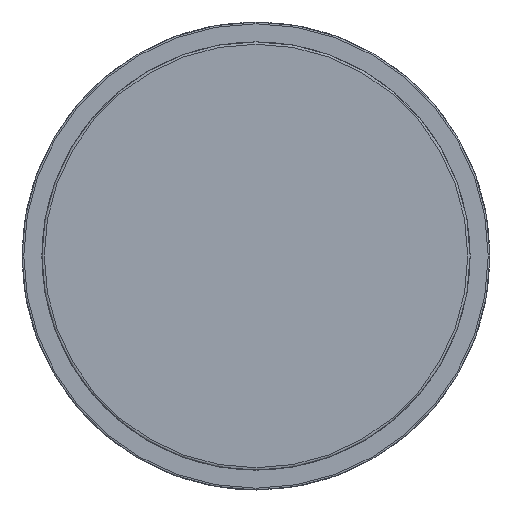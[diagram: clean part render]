
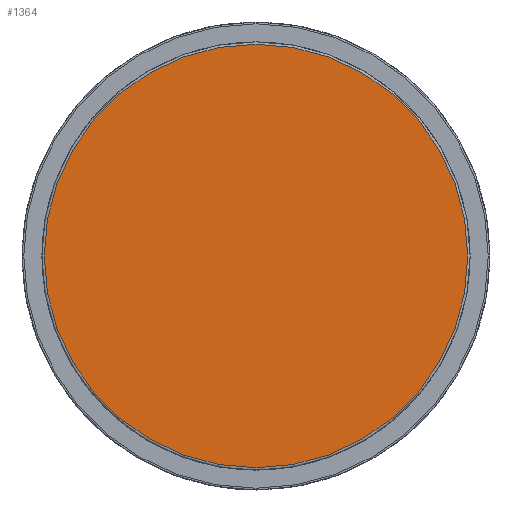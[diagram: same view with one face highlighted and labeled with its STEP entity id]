
A CAD part, left-side view. The second image highlights one B-rep face of the part: STEP entity #1364.
In plain terms, the highlighted planar face has unit normal (-1, 0, 0).
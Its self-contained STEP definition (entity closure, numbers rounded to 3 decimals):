
#1339=CARTESIAN_POINT('',(-528.136,-400.809,-87.3));
#1340=DIRECTION('',(-1.0,0.0,0.0));
#1341=DIRECTION('',(0.0,-1.0,0.0));
#1342=AXIS2_PLACEMENT_3D('',#1339,#1340,#1341);
#1343=PLANE('',#1342);
#1344=CARTESIAN_POINT('',(-528.136,-560.059,0.0));
#1345=VERTEX_POINT('',#1344);
#1346=CARTESIAN_POINT('',(-528.136,-416.159,0.0));
#1347=VERTEX_POINT('',#1346);
#1348=CARTESIAN_POINT('',(-528.136,-488.109,0.0));
#1349=DIRECTION('',(-1.0,0.0,0.0));
#1350=DIRECTION('',(0.0,-1.0,0.0));
#1351=AXIS2_PLACEMENT_3D('',#1348,#1349,#1350);
#1352=CIRCLE('',#1351,71.95);
#1353=EDGE_CURVE('',#1345,#1347,#1352,.T.);
#1354=ORIENTED_EDGE('',*,*,#1353,.T.);
#1355=CARTESIAN_POINT('',(-528.136,-488.109,0.0));
#1356=DIRECTION('',(-1.0,0.0,0.0));
#1357=DIRECTION('',(0.0,-1.0,0.0));
#1358=AXIS2_PLACEMENT_3D('',#1355,#1356,#1357);
#1359=CIRCLE('',#1358,71.95);
#1360=EDGE_CURVE('',#1347,#1345,#1359,.T.);
#1361=ORIENTED_EDGE('',*,*,#1360,.T.);
#1362=EDGE_LOOP('',(#1354,#1361));
#1363=FACE_OUTER_BOUND('',#1362,.T.);
#1364=ADVANCED_FACE('',(#1363),#1343,.T.);
